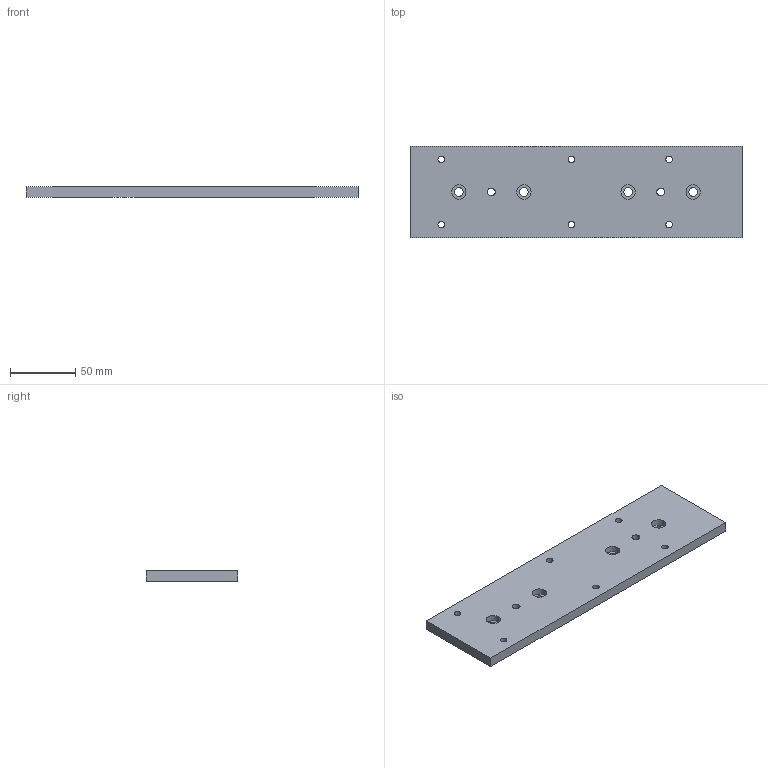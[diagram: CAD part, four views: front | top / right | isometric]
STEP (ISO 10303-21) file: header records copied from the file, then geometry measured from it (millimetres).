
FILE_DESCRIPTION (( 'STEP AP203' ), '1' );
FILE_NAME ('_-_PS2.step', '2005-09-07T09:26:06', ( ' ' ), ( ' ' ), 'SwSTEP 2.0', 'SolidWorks 2005187', '' );
FILE_SCHEMA (( 'CONFIG_CONTROL_DESIGN' ));
Length unit declared in the file: millimetre
Products named in the file (2): _-_PS2; TE0779 Schlittenplatte PS2_Standard
Assembly tree (1 placements, depth 2):
  _-_PS2
    TE0779 Schlittenplatte PS2_Standard
Bounding box: 255 x 70 x 8 mm (x, y, z)
Volume: 139093.9 mm3; surface area: 42273.1 mm2
Topology: 1 solids, 1 shells, 42 faces, 108 edges, 72 vertices
Faces by surface type: cylinder 32, plane 10
Entity records: 1560 total; most frequent: DIRECTION 264, CARTESIAN_POINT 226, ORIENTED_EDGE 216, AXIS2_PLACEMENT_3D 110, EDGE_CURVE 108, VERTEX_POINT 72, EDGE_LOOP 70, CIRCLE 64
